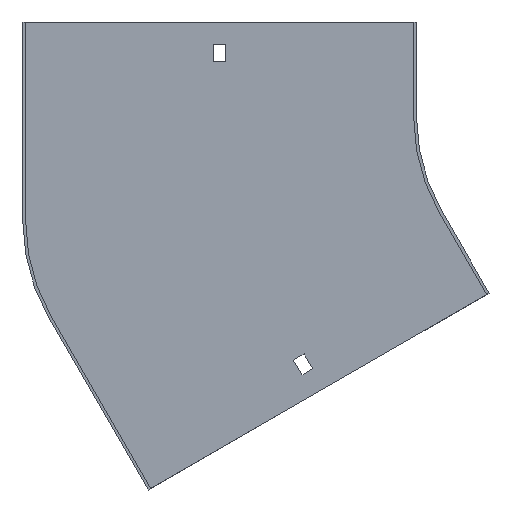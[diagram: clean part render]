
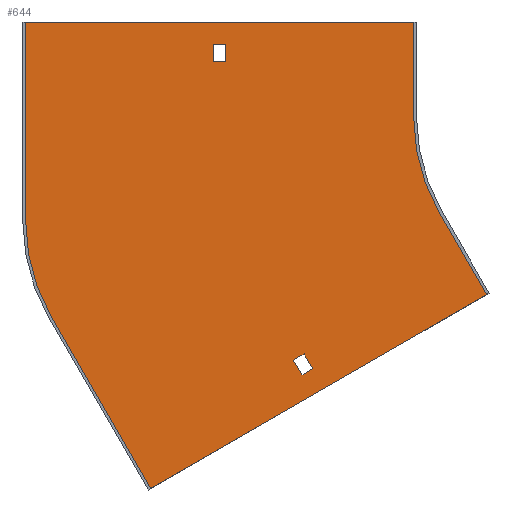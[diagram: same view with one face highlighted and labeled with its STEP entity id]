
A CAD part, front view. The second image highlights one B-rep face of the part: STEP entity #644.
In plain terms, the highlighted planar face has unit normal (0, -1, 0).
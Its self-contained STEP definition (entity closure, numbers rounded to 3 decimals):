
#19 = ORIENTED_EDGE ( 'NONE', *, *, #717, .F. ) ;
#20 = VECTOR ( 'NONE', #52, 1000. ) ;
#21 = VECTOR ( 'NONE', #778, 1000. ) ;
#36 = CARTESIAN_POINT ( 'NONE',  ( -204., -1.5, -54.662 ) ) ;
#37 = VERTEX_POINT ( 'NONE', #501 ) ;
#46 = CARTESIAN_POINT ( 'NONE',  ( -205.25, -1.5, 29. ) ) ;
#50 = CARTESIAN_POINT ( 'NONE',  ( -61.603, -1.5, -93.301 ) ) ;
#52 = DIRECTION ( 'NONE',  ( 0.5, 0., -0.866 ) ) ;
#55 = EDGE_CURVE ( 'NONE', #761, #451, #89, .T. ) ;
#61 = CARTESIAN_POINT ( 'NONE',  ( -304., -1.5, 50. ) ) ;
#70 = ORIENTED_EDGE ( 'NONE', *, *, #605, .T. ) ;
#72 = VERTEX_POINT ( 'NONE', #484 ) ;
#86 = CARTESIAN_POINT ( 'NONE',  ( -163.252, -1.5, -127.74 ) ) ;
#89 = LINE ( 'NONE', #148, #757 ) ;
#95 = EDGE_CURVE ( 'NONE', #469, #351, #468, .T. ) ;
#103 = CARTESIAN_POINT ( 'NONE',  ( -238.272, -1.5, -195.301 ) ) ;
#118 = DIRECTION ( 'NONE',  ( 0., 0., -1. ) ) ;
#119 = CARTESIAN_POINT ( 'NONE',  ( 14.5, -1.5, -25.115 ) ) ;
#120 = ORIENTED_EDGE ( 'NONE', *, *, #246, .T. ) ;
#125 = LINE ( 'NONE', #442, #21 ) ;
#127 = DIRECTION ( 'NONE',  ( 0., -1., 0. ) ) ;
#145 = VECTOR ( 'NONE', #118, 1000. ) ;
#146 = VERTEX_POINT ( 'NONE', #296 ) ;
#148 = CARTESIAN_POINT ( 'NONE',  ( 19., -1.5, -32.909 ) ) ;
#154 = CARTESIAN_POINT ( 'NONE',  ( -100., -1.5, 50. ) ) ;
#156 = DIRECTION ( 'NONE',  ( 0., 0., -1. ) ) ;
#158 = ORIENTED_EDGE ( 'NONE', *, *, #492, .F. ) ;
#170 = VERTEX_POINT ( 'NONE', #697 ) ;
#171 = DIRECTION ( 'NONE',  ( 0., 0., -1. ) ) ;
#176 = VECTOR ( 'NONE', #699, 1000. ) ;
#179 = LINE ( 'NONE', #240, #145 ) ;
#182 = EDGE_CURVE ( 'NONE', #474, #170, #201, .T. ) ;
#183 = CARTESIAN_POINT ( 'NONE',  ( -205.25, -1.5, 0. ) ) ;
#189 = CARTESIAN_POINT ( 'NONE',  ( 0., -1.5, 38. ) ) ;
#201 = CIRCLE ( 'NONE', #831, 100. ) ;
#205 = ORIENTED_EDGE ( 'NONE', *, *, #55, .F. ) ;
#209 = ORIENTED_EDGE ( 'NONE', *, *, #794, .F. ) ;
#210 = EDGE_CURVE ( 'NONE', #37, #597, #253, .T. ) ;
#211 = ORIENTED_EDGE ( 'NONE', *, *, #210, .T. ) ;
#213 = VECTOR ( 'NONE', #322, 1000. ) ;
#217 = CARTESIAN_POINT ( 'NONE',  ( -86.603, -1.5, -50. ) ) ;
#224 = CARTESIAN_POINT ( 'NONE',  ( -60.304, -1.5, -92.551 ) ) ;
#228 = VECTOR ( 'NONE', #366, 1000. ) ;
#230 = DIRECTION ( 'NONE',  ( 0., 0., -1. ) ) ;
#240 = CARTESIAN_POINT ( 'NONE',  ( -100., -1.5, 50. ) ) ;
#246 = EDGE_CURVE ( 'NONE', #597, #146, #786, .T. ) ;
#253 = LINE ( 'NONE', #452, #213 ) ;
#255 = CARTESIAN_POINT ( 'NONE',  ( -238.272, -1.5, -195.301 ) ) ;
#259 = DIRECTION ( 'NONE',  ( 0., -1., 0. ) ) ;
#264 = CARTESIAN_POINT ( 'NONE',  ( -304., -1.5, -54.662 ) ) ;
#278 = EDGE_CURVE ( 'NONE', #485, #761, #445, .T. ) ;
#296 = CARTESIAN_POINT ( 'NONE',  ( -205.25, -1.5, 38. ) ) ;
#300 = DIRECTION ( 'NONE',  ( 0., 1., 0. ) ) ;
#312 = CARTESIAN_POINT ( 'NONE',  ( 0., -1.5, 0. ) ) ;
#322 = DIRECTION ( 'NONE',  ( -1., 0., 0. ) ) ;
#342 = ORIENTED_EDGE ( 'NONE', *, *, #670, .F. ) ;
#351 = VERTEX_POINT ( 'NONE', #595 ) ;
#362 = LINE ( 'NONE', #103, #629 ) ;
#366 = DIRECTION ( 'NONE',  ( 0.5, 0., -0.866 ) ) ;
#383 = DIRECTION ( 'NONE',  ( 0., 0., -1. ) ) ;
#389 = DIRECTION ( 'NONE',  ( -0.866, 0., -0.5 ) ) ;
#400 = VERTEX_POINT ( 'NONE', #61 ) ;
#405 = EDGE_CURVE ( 'NONE', #351, #400, #814, .T. ) ;
#406 = VERTEX_POINT ( 'NONE', #677 ) ;
#408 = EDGE_CURVE ( 'NONE', #631, #469, #362, .T. ) ;
#417 = LINE ( 'NONE', #224, #550 ) ;
#418 = DIRECTION ( 'NONE',  ( 0.866, 0., 0.5 ) ) ;
#442 = CARTESIAN_POINT ( 'NONE',  ( -172.123, -1.5, -99.375 ) ) ;
#443 = FACE_OUTER_BOUND ( 'NONE', #444, .T. ) ;
#444 = EDGE_LOOP ( 'NONE', ( #209, #471, #607, #768, #158, #342, #525, #656 ) ) ;
#445 = LINE ( 'NONE', #719, #20 ) ;
#450 = LINE ( 'NONE', #119, #789 ) ;
#451 = VERTEX_POINT ( 'NONE', #691 ) ;
#452 = CARTESIAN_POINT ( 'NONE',  ( 0., -1.5, 29. ) ) ;
#453 = CARTESIAN_POINT ( 'NONE',  ( -305.5, -1.5, 50. ) ) ;
#468 = CIRCLE ( 'NONE', #701, 100. ) ;
#469 = VERTEX_POINT ( 'NONE', #572 ) ;
#471 = ORIENTED_EDGE ( 'NONE', *, *, #405, .F. ) ;
#474 = VERTEX_POINT ( 'NONE', #500 ) ;
#478 = VECTOR ( 'NONE', #523, 1000. ) ;
#484 = CARTESIAN_POINT ( 'NONE',  ( -157.623, -1.5, -124.49 ) ) ;
#485 = VERTEX_POINT ( 'NONE', #86 ) ;
#492 = EDGE_CURVE ( 'NONE', #546, #631, #417, .T. ) ;
#497 = VECTOR ( 'NONE', #530, 1000. ) ;
#500 = CARTESIAN_POINT ( 'NONE',  ( -100., -1.5, 0. ) ) ;
#501 = CARTESIAN_POINT ( 'NONE',  ( -198.75, -1.5, 29. ) ) ;
#519 = LINE ( 'NONE', #189, #176 ) ;
#520 = EDGE_CURVE ( 'NONE', #406, #37, #613, .T. ) ;
#523 = DIRECTION ( 'NONE',  ( 1., 0., 0. ) ) ;
#525 = ORIENTED_EDGE ( 'NONE', *, *, #182, .F. ) ;
#530 = DIRECTION ( 'NONE',  ( 0., 0., 1. ) ) ;
#546 = VERTEX_POINT ( 'NONE', #50 ) ;
#547 = LINE ( 'NONE', #217, #228 ) ;
#550 = VECTOR ( 'NONE', #609, 1000. ) ;
#555 = DIRECTION ( 'NONE',  ( -0.5, 0., 0.866 ) ) ;
#572 = CARTESIAN_POINT ( 'NONE',  ( -290.603, -1.5, -104.662 ) ) ;
#593 = FACE_BOUND ( 'NONE', #807, .T. ) ;
#595 = CARTESIAN_POINT ( 'NONE',  ( -304., -1.5, -54.662 ) ) ;
#597 = VERTEX_POINT ( 'NONE', #46 ) ;
#605 = EDGE_CURVE ( 'NONE', #146, #406, #519, .T. ) ;
#607 = ORIENTED_EDGE ( 'NONE', *, *, #95, .F. ) ;
#609 = DIRECTION ( 'NONE',  ( -0.866, 0., -0.5 ) ) ;
#612 = EDGE_LOOP ( 'NONE', ( #19, #205, #704, #771 ) ) ;
#613 = LINE ( 'NONE', #753, #845 ) ;
#615 = EDGE_CURVE ( 'NONE', #72, #485, #450, .T. ) ;
#629 = VECTOR ( 'NONE', #555, 1000. ) ;
#631 = VERTEX_POINT ( 'NONE', #255 ) ;
#644 = ADVANCED_FACE ( 'NONE', ( #648, #443, #593 ), #855, .T. ) ;
#645 = DIRECTION ( 'NONE',  ( 0., 0., 1. ) ) ;
#646 = AXIS2_PLACEMENT_3D ( 'NONE', #706, #259, #171 ) ;
#648 = FACE_BOUND ( 'NONE', #612, .T. ) ;
#656 = ORIENTED_EDGE ( 'NONE', *, *, #763, .F. ) ;
#670 = EDGE_CURVE ( 'NONE', #170, #546, #547, .T. ) ;
#677 = CARTESIAN_POINT ( 'NONE',  ( -198.75, -1.5, 38. ) ) ;
#683 = VERTEX_POINT ( 'NONE', #154 ) ;
#686 = VECTOR ( 'NONE', #645, 1000. ) ;
#691 = CARTESIAN_POINT ( 'NONE',  ( -153.123, -1.5, -132.284 ) ) ;
#697 = CARTESIAN_POINT ( 'NONE',  ( -86.603, -1.5, -50. ) ) ;
#698 = ORIENTED_EDGE ( 'NONE', *, *, #520, .T. ) ;
#699 = DIRECTION ( 'NONE',  ( 1., 0., 0. ) ) ;
#701 = AXIS2_PLACEMENT_3D ( 'NONE', #36, #300, #230 ) ;
#704 = ORIENTED_EDGE ( 'NONE', *, *, #278, .F. ) ;
#706 = CARTESIAN_POINT ( 'NONE',  ( 0., -1.5, 0. ) ) ;
#717 = EDGE_CURVE ( 'NONE', #451, #72, #125, .T. ) ;
#719 = CARTESIAN_POINT ( 'NONE',  ( -177.752, -1.5, -102.625 ) ) ;
#753 = CARTESIAN_POINT ( 'NONE',  ( -198.75, -1.5, 0. ) ) ;
#757 = VECTOR ( 'NONE', #418, 1000. ) ;
#761 = VERTEX_POINT ( 'NONE', #787 ) ;
#763 = EDGE_CURVE ( 'NONE', #683, #474, #179, .T. ) ;
#768 = ORIENTED_EDGE ( 'NONE', *, *, #408, .F. ) ;
#771 = ORIENTED_EDGE ( 'NONE', *, *, #615, .F. ) ;
#778 = DIRECTION ( 'NONE',  ( -0.5, 0., 0.866 ) ) ;
#786 = LINE ( 'NONE', #183, #686 ) ;
#787 = CARTESIAN_POINT ( 'NONE',  ( -158.752, -1.5, -135.534 ) ) ;
#789 = VECTOR ( 'NONE', #389, 1000. ) ;
#794 = EDGE_CURVE ( 'NONE', #400, #683, #854, .T. ) ;
#807 = EDGE_LOOP ( 'NONE', ( #70, #698, #211, #120 ) ) ;
#814 = LINE ( 'NONE', #264, #497 ) ;
#831 = AXIS2_PLACEMENT_3D ( 'NONE', #312, #127, #383 ) ;
#845 = VECTOR ( 'NONE', #156, 1000. ) ;
#854 = LINE ( 'NONE', #453, #478 ) ;
#855 = PLANE ( 'NONE',  #646 ) ;
